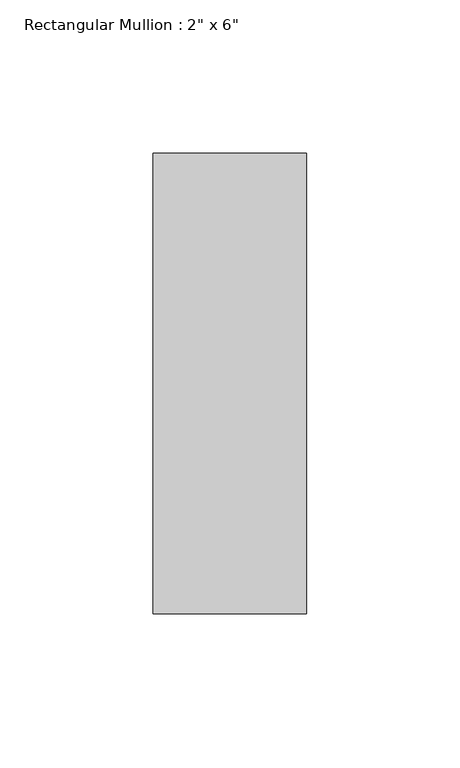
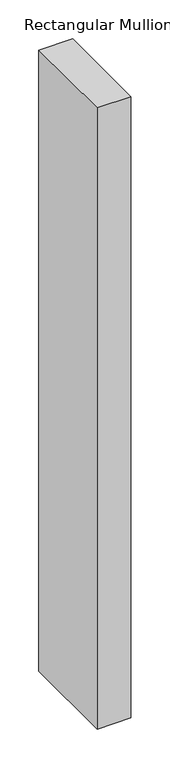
"""IFC4 building model written with IfcOpenShell, lengths in millimetres: member geometry."""

from ifc_helpers import new_model, si_unit, frame, origin, place, context, project, spatial, polyline, outline, extrude, source, transform, mapped, element, save


def member_0eaf0848(model_context):
    return source(origin(), model_context, "Body", "SweptSolid", [
        extrude(outline(polyline([(25.0, 150.0), (25.0, 0.0), (-25.0, 0.0), (-25.0, 150.0), (25.0, 150.0)])), frame((0.0, 0.0, -974.9999998), z_axis=(0.0, 0.0, 1.0), x_axis=(1.0, 0.0, 0.0)), (0.0, 0.0, 1.0), 974.9999998),
    ])


if __name__ == "__main__":
    model = new_model("IFC4")
    model_context = context("Model", 3, world=origin())
    ifc_project = project(units=[si_unit("LENGTHUNIT", "METRE", prefix="MILLI")], contexts=[model_context])
    site = spatial("IfcSite", under=ifc_project)
    building = spatial("IfcBuilding", under=site)
    placement = place(None, origin())
    member_shape = member_0eaf0848(model_context)
    element("IfcMember", 1, ObjectType="Rectangular Mullion : 2\" x 6\"", at=placement, inside=building, context=model_context, shape_type="MappedRepresentation", body=[
        mapped(member_shape, transform((0.0, 0.0, 0.0), x_axis=(1.0, 0.0, 0.0), y_axis=(0.0, 1.0, 0.0), z_axis=(0.0, 0.0, 1.0))),
    ])
    save(model, "model.ifc")
